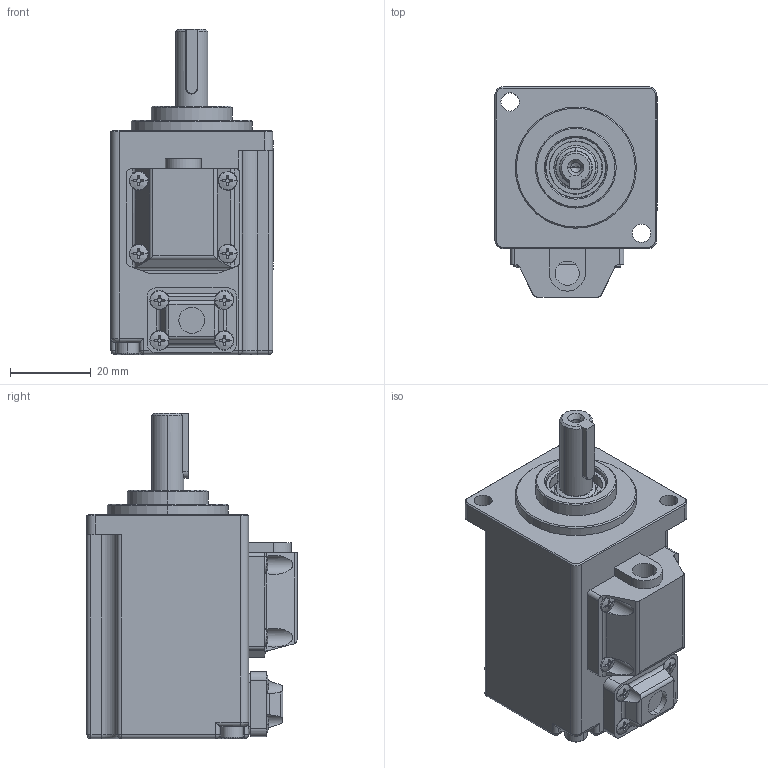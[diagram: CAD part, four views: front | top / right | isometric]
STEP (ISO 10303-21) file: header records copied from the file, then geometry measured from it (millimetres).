
FILE_DESCRIPTION((''),'2;1');
FILE_NAME('R-A5E1K4A0_ASM_ASM','2021-10-18T',('weizy7'),(''),'CREO PARAMETRIC BY PTC INC, 2016260','CREO PARAMETRIC BY PTC INC, 2016260','');
FILE_SCHEMA(('CONFIG_CONTROL_DESIGN'));
Length unit declared in the file: millimetre
Products named in the file (1): R-A5E1K4A0_ASM_ASM
Bounding box: 40.1 x 52 x 80.5 mm (x, y, z)
Volume: 91254.3 mm3; surface area: 18640.8 mm2
Topology: 1 solids, 27 shells, 709 faces, 1810 edges, 1145 vertices
Faces by surface type: plane 307, cylinder 277, cone 47, torus 28, bspline 26, sphere 24
Entity records: 22573 total; most frequent: CARTESIAN_POINT 5557, DIRECTION 3583, ORIENTED_EDGE 3544, EDGE_CURVE 1772, AXIS2_PLACEMENT_3D 1403, VERTEX_POINT 1145, VECTOR 777, LINE 777
